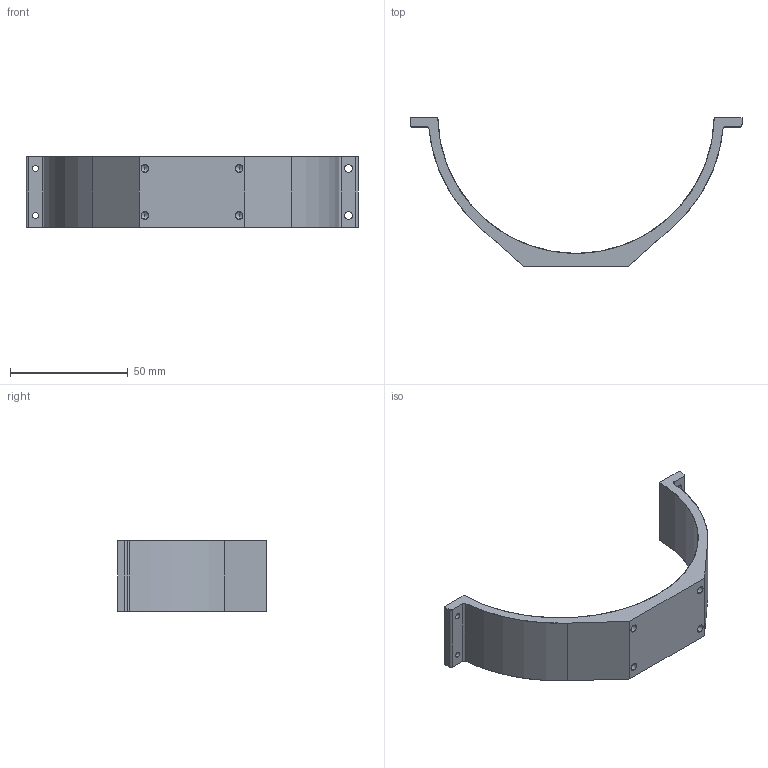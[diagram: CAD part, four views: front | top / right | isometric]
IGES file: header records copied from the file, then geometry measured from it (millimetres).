
Start section: SolidWorks IGES file using analytic representation for surfaces
Global section: file name: C:\Users\Adam\Desktop\Clamps\WTE4-M-CLAMP-R1.IGS; native system: SolidWorks 2014; preprocessor: SolidWorks 2014; author: Adam; date: 161107.162045; units: millimetre
Bounding box: 141.08 x 63.24 x 30 mm (x, y, z)
Surface area: 15097.8 mm2 (no closed solid volume)
Topology: 0 solids, 0 shells, 42 faces, 706 edges, 698 vertices
Faces by surface type: revolution 31, bspline 11
